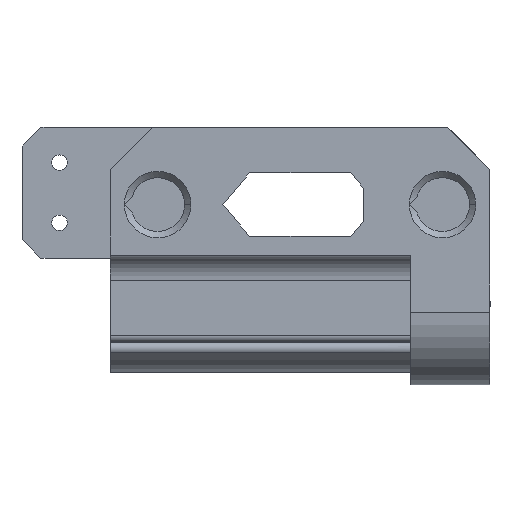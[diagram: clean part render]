
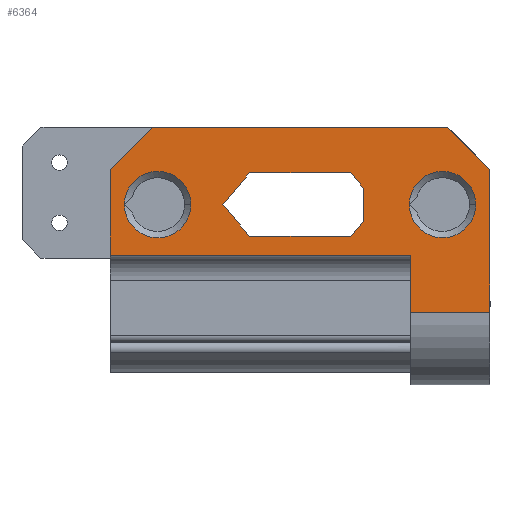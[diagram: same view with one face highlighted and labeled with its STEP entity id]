
A CAD part, left-side view. The second image highlights one B-rep face of the part: STEP entity #6364.
In plain terms, the highlighted planar face has unit normal (-1, 0, 0).
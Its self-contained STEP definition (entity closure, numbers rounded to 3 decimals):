
#1455=CARTESIAN_POINT('Vertex',(-35.5,-10.,14.384)) ;
#1460=CARTESIAN_POINT('Line Origine',(-35.5,-10.,17.)) ;
#1464=CARTESIAN_POINT('Vertex',(-35.5,-10.,19.616)) ;
#1491=CARTESIAN_POINT('Line Origine',(-35.5,-9.,20.808)) ;
#1495=CARTESIAN_POINT('Vertex',(-35.5,-8.,22.)) ;
#1522=CARTESIAN_POINT('Line Origine',(-35.5,-4.,22.)) ;
#1526=CARTESIAN_POINT('Vertex',(-35.5,0.,22.)) ;
#1548=CARTESIAN_POINT('Line Origine',(-35.5,4.,22.)) ;
#1552=CARTESIAN_POINT('Vertex',(-35.5,8.,22.)) ;
#1583=CARTESIAN_POINT('Vertex',(-35.5,12.195,17.)) ;
#1588=CARTESIAN_POINT('Line Origine',(-35.5,10.098,14.5)) ;
#1592=CARTESIAN_POINT('Vertex',(-35.5,8.,12.)) ;
#1619=CARTESIAN_POINT('Line Origine',(-35.5,4.,12.)) ;
#1623=CARTESIAN_POINT('Vertex',(-35.5,0.,12.)) ;
#1645=CARTESIAN_POINT('Line Origine',(-35.5,-4.,12.)) ;
#1649=CARTESIAN_POINT('Vertex',(-35.5,-8.,12.)) ;
#1720=CARTESIAN_POINT('Vertex',(-35.5,30.,9.)) ;
#1736=CARTESIAN_POINT('Vertex',(-35.5,-17.5,9.)) ;
#1739=CARTESIAN_POINT('Line Origine',(-35.5,6.25,9.)) ;
#2333=CARTESIAN_POINT('Vertex',(-35.5,27.75,17.)) ;
#2416=CARTESIAN_POINT('Vertex',(-35.5,-17.25,17.)) ;
#5210=CARTESIAN_POINT('Vertex',(-35.5,-27.75,17.)) ;
#5213=CARTESIAN_POINT('Axis2P3D Location',(-35.5,-22.5,17.)) ;
#5230=CARTESIAN_POINT('Axis2P3D Location',(-35.5,-22.5,17.)) ;
#5247=CARTESIAN_POINT('Axis2P3D Location',(-35.5,22.5,17.)) ;
#5251=CARTESIAN_POINT('Vertex',(-35.5,17.25,17.)) ;
#5271=CARTESIAN_POINT('Axis2P3D Location',(-35.5,22.5,17.)) ;
#5287=CARTESIAN_POINT('Vertex',(-35.5,30.,22.581)) ;
#5290=CARTESIAN_POINT('Line Origine',(-35.5,26.666,25.916)) ;
#5294=CARTESIAN_POINT('Vertex',(-35.5,23.331,29.25)) ;
#5309=CARTESIAN_POINT('Line Origine',(-35.5,0.,29.25)) ;
#5313=CARTESIAN_POINT('Vertex',(-35.5,-23.331,29.25)) ;
#5511=CARTESIAN_POINT('Line Origine',(-35.5,-9.,13.192)) ;
#5533=CARTESIAN_POINT('Line Origine',(-35.5,10.098,19.5)) ;
#5607=CARTESIAN_POINT('Line Origine',(-35.5,30.,15.791)) ;
#5804=CARTESIAN_POINT('Vertex',(-35.5,-17.5,0.)) ;
#5807=CARTESIAN_POINT('Line Origine',(-35.5,-17.5,4.5)) ;
#6299=CARTESIAN_POINT('Line Origine',(-35.5,-26.666,25.916)) ;
#6303=CARTESIAN_POINT('Vertex',(-35.5,-30.,22.581)) ;
#6318=CARTESIAN_POINT('Axis2P3D Location',(-35.5,0.,0.)) ;
#6323=CARTESIAN_POINT('Line Origine',(-35.5,-23.75,0.)) ;
#6327=CARTESIAN_POINT('Vertex',(-35.5,-30.,0.)) ;
#6330=CARTESIAN_POINT('Line Origine',(-35.5,-30.,11.291)) ;
#1461=DIRECTION('Vector Direction',(0.,0.,1.)) ;
#1492=DIRECTION('Vector Direction',(0.,0.643,0.766)) ;
#1523=DIRECTION('Vector Direction',(0.,1.,0.)) ;
#1549=DIRECTION('Vector Direction',(0.,-1.,0.)) ;
#1589=DIRECTION('Vector Direction',(0.,-0.643,-0.766)) ;
#1620=DIRECTION('Vector Direction',(0.,-1.,0.)) ;
#1646=DIRECTION('Vector Direction',(0.,1.,0.)) ;
#1740=DIRECTION('Vector Direction',(0.,-1.,0.)) ;
#5214=DIRECTION('Axis2P3D Direction',(-1.,0.,0.)) ;
#5231=DIRECTION('Axis2P3D Direction',(-1.,0.,0.)) ;
#5248=DIRECTION('Axis2P3D Direction',(-1.,0.,0.)) ;
#5272=DIRECTION('Axis2P3D Direction',(-1.,0.,0.)) ;
#5291=DIRECTION('Vector Direction',(0.,0.707,-0.707)) ;
#5310=DIRECTION('Vector Direction',(0.,-1.,0.)) ;
#5512=DIRECTION('Vector Direction',(0.,0.643,-0.766)) ;
#5534=DIRECTION('Vector Direction',(0.,-0.643,0.766)) ;
#5608=DIRECTION('Vector Direction',(0.,0.,1.)) ;
#5808=DIRECTION('Vector Direction',(0.,0.,1.)) ;
#6300=DIRECTION('Vector Direction',(0.,-0.707,-0.707)) ;
#6319=DIRECTION('Axis2P3D Direction',(-1.,0.,0.)) ;
#6320=DIRECTION('Axis2P3D XDirection',(0.,0.,1.)) ;
#6324=DIRECTION('Vector Direction',(0.,1.,0.)) ;
#6331=DIRECTION('Vector Direction',(0.,0.,1.)) ;
#5215=AXIS2_PLACEMENT_3D('Circle Axis2P3D',#5213,#5214,$) ;
#5232=AXIS2_PLACEMENT_3D('Circle Axis2P3D',#5230,#5231,$) ;
#5249=AXIS2_PLACEMENT_3D('Circle Axis2P3D',#5247,#5248,$) ;
#5273=AXIS2_PLACEMENT_3D('Circle Axis2P3D',#5271,#5272,$) ;
#6321=AXIS2_PLACEMENT_3D('Plane Axis2P3D',#6318,#6319,#6320) ;
#6336=ORIENTED_EDGE('',*,*,#6329,.F.) ;
#6337=ORIENTED_EDGE('',*,*,#6334,.T.) ;
#6338=ORIENTED_EDGE('',*,*,#6305,.F.) ;
#6339=ORIENTED_EDGE('',*,*,#5315,.F.) ;
#6340=ORIENTED_EDGE('',*,*,#5296,.F.) ;
#6341=ORIENTED_EDGE('',*,*,#5611,.F.) ;
#6342=ORIENTED_EDGE('',*,*,#1743,.T.) ;
#6343=ORIENTED_EDGE('',*,*,#5811,.T.) ;
#6346=ORIENTED_EDGE('',*,*,#5275,.F.) ;
#6347=ORIENTED_EDGE('',*,*,#5253,.F.) ;
#6350=ORIENTED_EDGE('',*,*,#5234,.F.) ;
#6351=ORIENTED_EDGE('',*,*,#5217,.F.) ;
#6354=ORIENTED_EDGE('',*,*,#5515,.F.) ;
#6355=ORIENTED_EDGE('',*,*,#1651,.F.) ;
#6356=ORIENTED_EDGE('',*,*,#1625,.F.) ;
#6357=ORIENTED_EDGE('',*,*,#1594,.F.) ;
#6358=ORIENTED_EDGE('',*,*,#5537,.F.) ;
#6359=ORIENTED_EDGE('',*,*,#1554,.F.) ;
#6360=ORIENTED_EDGE('',*,*,#1528,.F.) ;
#6361=ORIENTED_EDGE('',*,*,#1497,.F.) ;
#6362=ORIENTED_EDGE('',*,*,#1466,.F.) ;
#6348=FACE_BOUND('',#6345,.T.) ;
#6352=FACE_BOUND('',#6349,.T.) ;
#6363=FACE_BOUND('',#6353,.T.) ;
#1462=VECTOR('Line Direction',#1461,1.) ;
#1493=VECTOR('Line Direction',#1492,1.) ;
#1524=VECTOR('Line Direction',#1523,1.) ;
#1550=VECTOR('Line Direction',#1549,1.) ;
#1590=VECTOR('Line Direction',#1589,1.) ;
#1621=VECTOR('Line Direction',#1620,1.) ;
#1647=VECTOR('Line Direction',#1646,1.) ;
#1741=VECTOR('Line Direction',#1740,1.) ;
#5292=VECTOR('Line Direction',#5291,1.) ;
#5311=VECTOR('Line Direction',#5310,1.) ;
#5513=VECTOR('Line Direction',#5512,1.) ;
#5535=VECTOR('Line Direction',#5534,1.) ;
#5609=VECTOR('Line Direction',#5608,1.) ;
#5809=VECTOR('Line Direction',#5808,1.) ;
#6301=VECTOR('Line Direction',#6300,1.) ;
#6325=VECTOR('Line Direction',#6324,1.) ;
#6332=VECTOR('Line Direction',#6331,1.) ;
#6364=ADVANCED_FACE('PartBody',(#6344,#6348,#6352,#6363),#6322,.T.) ;
#5216=CIRCLE('generated circle',#5215,5.25) ;
#5233=CIRCLE('generated circle',#5232,5.25) ;
#5250=CIRCLE('generated circle',#5249,5.25) ;
#5274=CIRCLE('generated circle',#5273,5.25) ;
#1466=EDGE_CURVE('',#1456,#1465,#1463,.T.) ;
#1497=EDGE_CURVE('',#1465,#1496,#1494,.T.) ;
#1528=EDGE_CURVE('',#1496,#1527,#1525,.T.) ;
#1554=EDGE_CURVE('',#1527,#1553,#1551,.F.) ;
#1594=EDGE_CURVE('',#1584,#1593,#1591,.T.) ;
#1625=EDGE_CURVE('',#1593,#1624,#1622,.T.) ;
#1651=EDGE_CURVE('',#1624,#1650,#1648,.F.) ;
#1743=EDGE_CURVE('',#1721,#1737,#1742,.T.) ;
#5217=EDGE_CURVE('',#5211,#2417,#5216,.T.) ;
#5234=EDGE_CURVE('',#2417,#5211,#5233,.T.) ;
#5253=EDGE_CURVE('',#2334,#5252,#5250,.T.) ;
#5275=EDGE_CURVE('',#5252,#2334,#5274,.T.) ;
#5296=EDGE_CURVE('',#5288,#5295,#5293,.F.) ;
#5315=EDGE_CURVE('',#5295,#5314,#5312,.T.) ;
#5515=EDGE_CURVE('',#1650,#1456,#5514,.F.) ;
#5537=EDGE_CURVE('',#1553,#1584,#5536,.F.) ;
#5611=EDGE_CURVE('',#1721,#5288,#5610,.T.) ;
#5811=EDGE_CURVE('',#1737,#5805,#5810,.F.) ;
#6305=EDGE_CURVE('',#5314,#6304,#6302,.T.) ;
#6329=EDGE_CURVE('',#6328,#5805,#6326,.T.) ;
#6334=EDGE_CURVE('',#6328,#6304,#6333,.T.) ;
#6335=EDGE_LOOP('',(#6336,#6337,#6338,#6339,#6340,#6341,#6342,#6343)) ;
#6345=EDGE_LOOP('',(#6346,#6347)) ;
#6349=EDGE_LOOP('',(#6350,#6351)) ;
#6353=EDGE_LOOP('',(#6354,#6355,#6356,#6357,#6358,#6359,#6360,#6361,#6362)) ;
#6344=FACE_OUTER_BOUND('',#6335,.T.) ;
#1463=LINE('Line',#1460,#1462) ;
#1494=LINE('Line',#1491,#1493) ;
#1525=LINE('Line',#1522,#1524) ;
#1551=LINE('Line',#1548,#1550) ;
#1591=LINE('Line',#1588,#1590) ;
#1622=LINE('Line',#1619,#1621) ;
#1648=LINE('Line',#1645,#1647) ;
#1742=LINE('Line',#1739,#1741) ;
#5293=LINE('Line',#5290,#5292) ;
#5312=LINE('Line',#5309,#5311) ;
#5514=LINE('Line',#5511,#5513) ;
#5536=LINE('Line',#5533,#5535) ;
#5610=LINE('Line',#5607,#5609) ;
#5810=LINE('Line',#5807,#5809) ;
#6302=LINE('Line',#6299,#6301) ;
#6326=LINE('Line',#6323,#6325) ;
#6333=LINE('Line',#6330,#6332) ;
#6322=PLANE('Plane',#6321) ;
#1456=VERTEX_POINT('',#1455) ;
#1465=VERTEX_POINT('',#1464) ;
#1496=VERTEX_POINT('',#1495) ;
#1527=VERTEX_POINT('',#1526) ;
#1553=VERTEX_POINT('',#1552) ;
#1584=VERTEX_POINT('',#1583) ;
#1593=VERTEX_POINT('',#1592) ;
#1624=VERTEX_POINT('',#1623) ;
#1650=VERTEX_POINT('',#1649) ;
#1721=VERTEX_POINT('',#1720) ;
#1737=VERTEX_POINT('',#1736) ;
#2334=VERTEX_POINT('',#2333) ;
#2417=VERTEX_POINT('',#2416) ;
#5211=VERTEX_POINT('',#5210) ;
#5252=VERTEX_POINT('',#5251) ;
#5288=VERTEX_POINT('',#5287) ;
#5295=VERTEX_POINT('',#5294) ;
#5314=VERTEX_POINT('',#5313) ;
#5805=VERTEX_POINT('',#5804) ;
#6304=VERTEX_POINT('',#6303) ;
#6328=VERTEX_POINT('',#6327) ;
